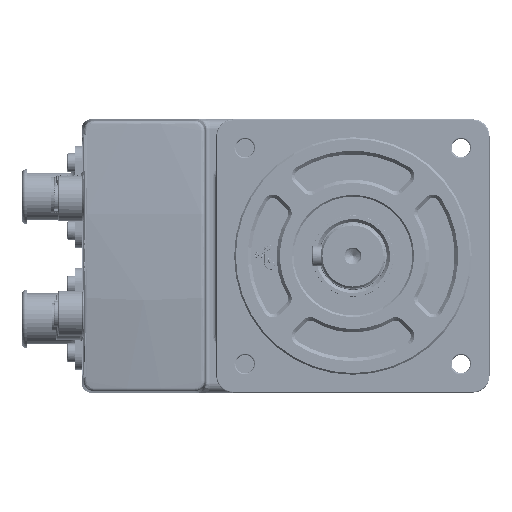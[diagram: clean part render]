
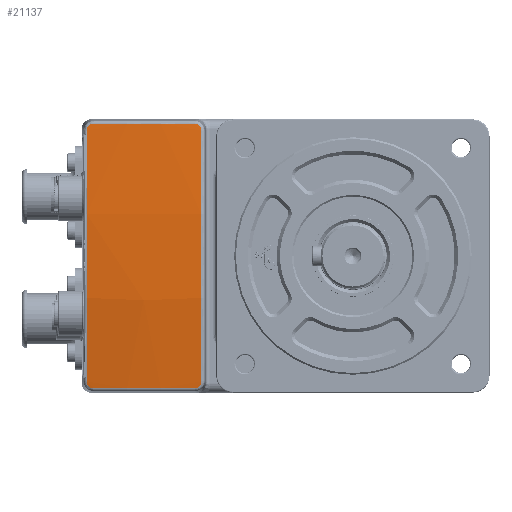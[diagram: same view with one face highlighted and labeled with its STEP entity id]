
A CAD part, left-side view. The second image highlights one B-rep face of the part: STEP entity #21137.
In plain terms, the highlighted spherical face has radius 300 mm.
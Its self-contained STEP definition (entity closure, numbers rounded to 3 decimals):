
#3349=CARTESIAN_POINT('',(-36.961,44.655,
-38.793));
#3356=CARTESIAN_POINT('',(36.961,44.655,-38.793));
#3370=CARTESIAN_POINT('',(0.,42.058,-336.459));
#3371=DIRECTION('',(0.,-1.,0.009));
#3372=DIRECTION('',(0.123,0.009,0.992));
#3373=AXIS2_PLACEMENT_3D('',#3370,#3371,#3372);
#3375=CARTESIAN_POINT('',(-38.97,46.66,
-39.042));
#3376=CARTESIAN_POINT('',(-38.97,46.486,
-39.042));
#3377=CARTESIAN_POINT('',(-38.926,46.149,
-39.037));
#3378=CARTESIAN_POINT('',(-38.725,45.651,
-39.012));
#3379=CARTESIAN_POINT('',(-38.402,45.23,
-38.972));
#3380=CARTESIAN_POINT('',(-37.981,44.904,
-38.919));
#3381=CARTESIAN_POINT('',(-37.479,44.699,
-38.857));
#3382=CARTESIAN_POINT('',(-37.137,44.655,
-38.814));
#3383=CARTESIAN_POINT('',(-36.961,44.655,
-38.793));
#3385=CARTESIAN_POINT('',(-36.976,78.459,
-40.486));
#3386=CARTESIAN_POINT('',(-37.107,78.459,
-40.503));
#3387=CARTESIAN_POINT('',(-37.37,78.433,
-40.533));
#3388=CARTESIAN_POINT('',(-37.686,78.338,
-40.563));
#3389=CARTESIAN_POINT('',(-37.923,78.226,
-40.581));
#3390=CARTESIAN_POINT('',(-38.093,78.124,
-40.592));
#3391=CARTESIAN_POINT('',(-38.252,78.006,
-40.6));
#3392=CARTESIAN_POINT('',(-38.446,77.831,
-40.607));
#3393=CARTESIAN_POINT('',(-38.658,77.573,
-40.607));
#3394=CARTESIAN_POINT('',(-38.812,77.284,
-40.597));
#3395=CARTESIAN_POINT('',(-38.901,77.035,
-40.584));
#3396=CARTESIAN_POINT('',(-38.964,76.779,
-40.566));
#3397=CARTESIAN_POINT('',(-38.983,76.585,
-40.549));
#3398=CARTESIAN_POINT('',(-38.983,76.452,
-40.535));
#3400=CARTESIAN_POINT('',(38.983,76.452,-40.535));
#3401=CARTESIAN_POINT('',(38.983,76.584,-40.549));
#3402=CARTESIAN_POINT('',(38.957,76.848,-40.572));
#3403=CARTESIAN_POINT('',(38.861,77.164,-40.592));
#3404=CARTESIAN_POINT('',(38.749,77.401,-40.601));
#3405=CARTESIAN_POINT('',(38.647,77.572,-40.606));
#3406=CARTESIAN_POINT('',(38.529,77.73,-40.607));
#3407=CARTESIAN_POINT('',(38.353,77.924,-40.604));
#3408=CARTESIAN_POINT('',(38.094,78.135,-40.593));
#3409=CARTESIAN_POINT('',(37.806,78.288,-40.573));
#3410=CARTESIAN_POINT('',(37.557,78.377,-40.551));
#3411=CARTESIAN_POINT('',(37.302,78.44,-40.525));
#3412=CARTESIAN_POINT('',(37.108,78.459,-40.503));
#3413=CARTESIAN_POINT('',(36.976,78.459,-40.486));
#3415=CARTESIAN_POINT('',(36.961,44.655,-38.793));
#3416=CARTESIAN_POINT('',(37.138,44.655,-38.815));
#3417=CARTESIAN_POINT('',(37.479,44.7,-38.857));
#3418=CARTESIAN_POINT('',(37.981,44.904,-38.919));
#3419=CARTESIAN_POINT('',(38.402,45.23,-38.972));
#3420=CARTESIAN_POINT('',(38.725,45.651,-39.012));
#3421=CARTESIAN_POINT('',(38.927,46.149,-39.037));
#3422=CARTESIAN_POINT('',(38.97,46.486,-39.042));
#3423=CARTESIAN_POINT('',(38.97,46.66,-39.042));
#3430=CARTESIAN_POINT('',(-41.563,46.7,-336.137));
#3431=DIRECTION('',(1.,0.,-0.009));
#3432=DIRECTION('',(0.009,0.1,0.995));
#3433=AXIS2_PLACEMENT_3D('',#3430,#3431,#3432);
#3458=CARTESIAN_POINT('',(0.,81.039,-336.2));
#3459=DIRECTION('',(0.,-1.,-0.009));
#3460=DIRECTION('',(0.124,-0.009,0.992));
#3461=AXIS2_PLACEMENT_3D('',#3458,#3459,#3460);
#3822=CARTESIAN_POINT('',(41.563,46.7,-336.137));
#3823=DIRECTION('',(1.,0.,0.009));
#3824=DIRECTION('',(-0.009,0.1,0.995));
#3825=AXIS2_PLACEMENT_3D('',#3822,#3823,#3824);
#14375=CARTESIAN_POINT('',(-36.976,78.459,
-40.486));
#14377=VERTEX_POINT('',#14375);
#14379=CARTESIAN_POINT('',(38.983,76.452,
-40.535));
#14380=CARTESIAN_POINT('',(38.97,46.66,
-39.042));
#14381=VERTEX_POINT('',#14379);
#14382=VERTEX_POINT('',#14380);
#14450=VERTEX_POINT('',#3356);
#14507=CARTESIAN_POINT('',(-38.97,46.66,
-39.042));
#14509=VERTEX_POINT('',#14507);
#14605=CARTESIAN_POINT('',(36.976,78.459,
-40.486));
#14607=VERTEX_POINT('',#14605);
#14663=VERTEX_POINT('',#3349);
#14672=CARTESIAN_POINT('',(-38.983,76.452,
-40.535));
#14674=VERTEX_POINT('',#14672);
#21117=CARTESIAN_POINT('',(0.,46.7,-336.5));
#21118=DIRECTION('',(1.,0.,0.));
#21119=DIRECTION('',(0.,1.,0.));
#21120=AXIS2_PLACEMENT_3D('',#21117,#21118,#21119);
#21121=SPHERICAL_SURFACE('',#21120,300.);
#21122=ORIENTED_EDGE('',*,*,#20951,.T.);
#21123=ORIENTED_EDGE('',*,*,#20922,.F.);
#21125=ORIENTED_EDGE('',*,*,#21124,.F.);
#21127=ORIENTED_EDGE('',*,*,#21126,.F.);
#21129=ORIENTED_EDGE('',*,*,#21128,.F.);
#21131=ORIENTED_EDGE('',*,*,#21130,.F.);
#21133=ORIENTED_EDGE('',*,*,#21132,.T.);
#21134=ORIENTED_EDGE('',*,*,#21096,.F.);
#21135=EDGE_LOOP('',(#21122,#21123,#21125,#21127,#21129,#21131,#21133,#21134));
#21136=FACE_OUTER_BOUND('',#21135,.F.);
#3374=CIRCLE('',#3373,299.964);
#3384=B_SPLINE_CURVE_WITH_KNOTS('',3,(#3375,#3376,#3377,#3378,#3379,#3380,#3381,
#3382,#3383),.UNSPECIFIED.,.F.,.F.,(4,1,1,1,1,1,4),(0.,0.167,
0.333,0.5,0.667,0.833,1.),
.UNSPECIFIED.);
#3399=B_SPLINE_CURVE_WITH_KNOTS('',3,(#3385,#3386,#3387,#3388,#3389,#3390,#3391,
#3392,#3393,#3394,#3395,#3396,#3397,#3398),.UNSPECIFIED.,.F.,.F.,(4,1,1,1,1,1,1,
1,1,1,1,4),(0.,0.125,0.25,0.313,0.375,0.438,0.5,0.625,0.75,
0.813,0.875,1.),.UNSPECIFIED.);
#3414=B_SPLINE_CURVE_WITH_KNOTS('',3,(#3400,#3401,#3402,#3403,#3404,#3405,#3406,
#3407,#3408,#3409,#3410,#3411,#3412,#3413),.UNSPECIFIED.,.F.,.F.,(4,1,1,1,1,1,1,
1,1,1,1,4),(0.,0.125,0.25,0.313,0.375,0.438,0.5,0.625,0.75,
0.813,0.875,1.),.UNSPECIFIED.);
#3424=B_SPLINE_CURVE_WITH_KNOTS('',3,(#3415,#3416,#3417,#3418,#3419,#3420,#3421,
#3422,#3423),.UNSPECIFIED.,.F.,.F.,(4,1,1,1,1,1,4),(0.,0.167,
0.333,0.5,0.667,0.833,1.),
.UNSPECIFIED.);
#3434=CIRCLE('',#3433,297.107);
#3462=CIRCLE('',#3461,298.028);
#3826=CIRCLE('',#3825,297.107);
#20922=EDGE_CURVE('',#14509,#14663,#3384,.T.);
#20951=EDGE_CURVE('',#14450,#14663,#3374,.T.);
#21096=EDGE_CURVE('',#14450,#14382,#3424,.T.);
#21124=EDGE_CURVE('',#14674,#14509,#3434,.T.);
#21126=EDGE_CURVE('',#14377,#14674,#3399,.T.);
#21128=EDGE_CURVE('',#14607,#14377,#3462,.T.);
#21130=EDGE_CURVE('',#14381,#14607,#3414,.T.);
#21132=EDGE_CURVE('',#14381,#14382,#3826,.T.);
#21137=ADVANCED_FACE('',(#21136),#21121,.T.);
